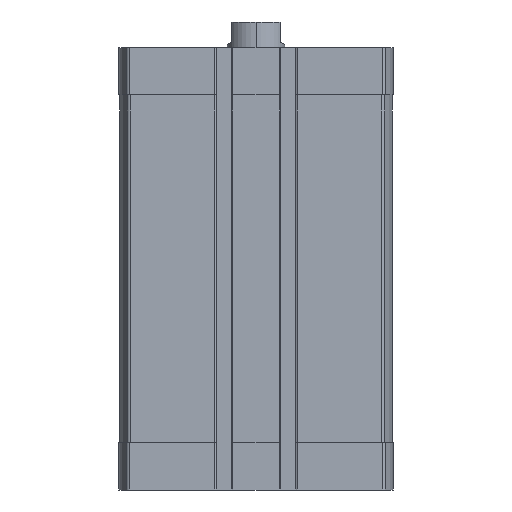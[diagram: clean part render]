
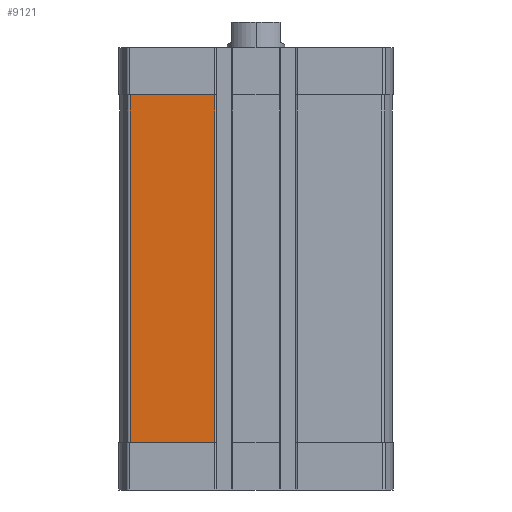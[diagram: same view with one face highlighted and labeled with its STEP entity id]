
A CAD part, left-side view. The second image highlights one B-rep face of the part: STEP entity #9121.
In plain terms, the highlighted planar face has unit normal (-1, 0, 0).
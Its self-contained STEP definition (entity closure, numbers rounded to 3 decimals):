
#411 = DIRECTION ( 'NONE',  ( 0., 0., -1. ) ) ;
#457 = VECTOR ( 'NONE', #1357, 1000. ) ;
#661 = AXIS2_PLACEMENT_3D ( 'NONE', #8570, #1235, #9745 ) ;
#797 = ORIENTED_EDGE ( 'NONE', *, *, #14537, .T. ) ;
#1235 = DIRECTION ( 'NONE',  ( -1., 0., 0. ) ) ;
#1357 = DIRECTION ( 'NONE',  ( 0., 1., 0. ) ) ;
#1451 = VECTOR ( 'NONE', #5349, 1000. ) ;
#1971 = LINE ( 'NONE', #12499, #1451 ) ;
#2315 = VERTEX_POINT ( 'NONE', #6916 ) ;
#3889 = VERTEX_POINT ( 'NONE', #6328 ) ;
#3933 = CARTESIAN_POINT ( 'NONE',  ( -47.5, 43.743, -137.5 ) ) ;
#4134 = DIRECTION ( 'NONE',  ( 0., -1., 0. ) ) ;
#4779 = VERTEX_POINT ( 'NONE', #15088 ) ;
#5349 = DIRECTION ( 'NONE',  ( 0., 0., 1. ) ) ;
#5386 = EDGE_LOOP ( 'NONE', ( #6661, #10801, #797, #14233 ) ) ;
#5490 = EDGE_CURVE ( 'NONE', #2315, #4779, #1971, .T. ) ;
#5789 = CARTESIAN_POINT ( 'NONE',  ( -47.5, 43.743, -16.5 ) ) ;
#6328 = CARTESIAN_POINT ( 'NONE',  ( -47.5, 43.743, -137.5 ) ) ;
#6330 = EDGE_CURVE ( 'NONE', #3889, #2315, #13434, .T. ) ;
#6347 = CARTESIAN_POINT ( 'NONE',  ( -47.5, 0., -16.5 ) ) ;
#6661 = ORIENTED_EDGE ( 'NONE', *, *, #6330, .T. ) ;
#6665 = VECTOR ( 'NONE', #411, 1000. ) ;
#6696 = LINE ( 'NONE', #3933, #6665 ) ;
#6916 = CARTESIAN_POINT ( 'NONE',  ( -47.5, 14.3, -137.5 ) ) ;
#7927 = FACE_OUTER_BOUND ( 'NONE', #5386, .T. ) ;
#8570 = CARTESIAN_POINT ( 'NONE',  ( -47.5, 43.743, -137.5 ) ) ;
#9121 = ADVANCED_FACE ( 'NONE', ( #7927 ), #14331, .T. ) ;
#9303 = EDGE_CURVE ( 'NONE', #12123, #3889, #6696, .T. ) ;
#9745 = DIRECTION ( 'NONE',  ( 0., 0., 1. ) ) ;
#10093 = LINE ( 'NONE', #6347, #457 ) ;
#10801 = ORIENTED_EDGE ( 'NONE', *, *, #5490, .T. ) ;
#11391 = CARTESIAN_POINT ( 'NONE',  ( -47.5, 43.743, -137.5 ) ) ;
#12123 = VERTEX_POINT ( 'NONE', #5789 ) ;
#12499 = CARTESIAN_POINT ( 'NONE',  ( -47.5, 14.3, -137.5 ) ) ;
#13434 = LINE ( 'NONE', #11391, #13591 ) ;
#13591 = VECTOR ( 'NONE', #4134, 1000. ) ;
#14233 = ORIENTED_EDGE ( 'NONE', *, *, #9303, .T. ) ;
#14331 = PLANE ( 'NONE',  #661 ) ;
#14537 = EDGE_CURVE ( 'NONE', #4779, #12123, #10093, .T. ) ;
#15088 = CARTESIAN_POINT ( 'NONE',  ( -47.5, 14.3, -16.5 ) ) ;
